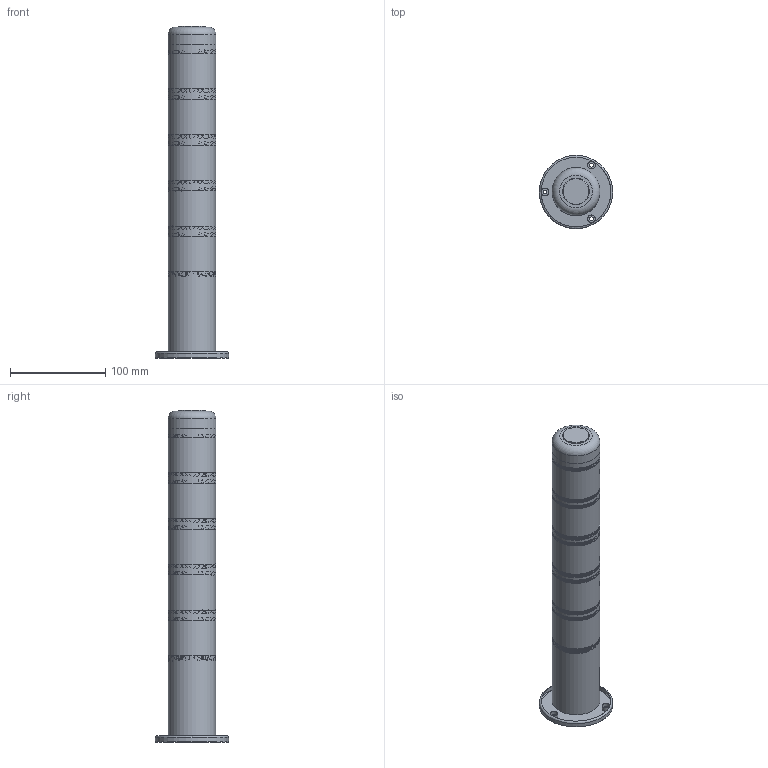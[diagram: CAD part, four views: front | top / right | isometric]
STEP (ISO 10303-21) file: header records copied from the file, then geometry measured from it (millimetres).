
FILE_DESCRIPTION(/* description */ (''),/* implementation_level */ '2;1');
FILE_NAME(/* name */ 'OLE1-501 常亮.stp',/* time_stamp */ '2022-12-13T18:18:14+08:00',/* author */ (''),/* organization */ (''),/* preprocessor_version */ 'ST-DEVELOPER v16.7',/* originating_system */ 'SIEMENS PLM Software NX 12.0',/* authorisation */ '');
FILE_SCHEMA (('AUTOMOTIVE_DESIGN { 1 0 10303 214 3 1 1 1 }'));
Products named in the file (1): Admi15EC76A1t4r9
Bounding box: 77 x 77 x 348.5 mm (x, y, z)
Volume: 184523.3 mm3; surface area: 174690.4 mm2
Topology: 14 solids, 15 shells, 2508 faces, 6033 edges, 4023 vertices
Faces by surface type: plane 2320, cylinder 99, bspline 72, cone 14, torus 3
Full cylindrical faces by diameter (mm): 4 x3, 8 x3, 18 x1, 21.5 x1, 28 x1, 32 x5, 38 x1, 42 x1, 44.2 x5, 45 x1, 45.5 x8, 46.3 x5, 47 x1, 50 x6, 50.3 x6, 77 x1
Entity records: 100116 total; most frequent: CARTESIAN_POINT 44461, ORIENTED_EDGE 11790, DIRECTION 9721, EDGE_CURVE 5895, LINE 4557, VECTOR 4557, VERTEX_POINT 3958, EDGE_LOOP 3055
